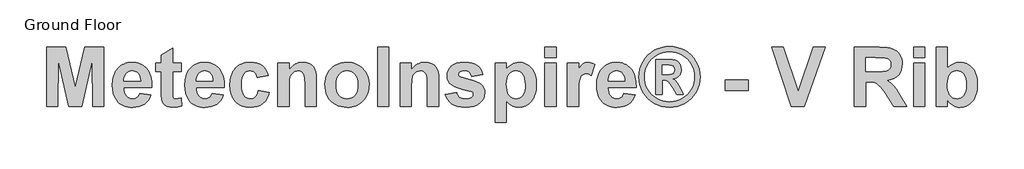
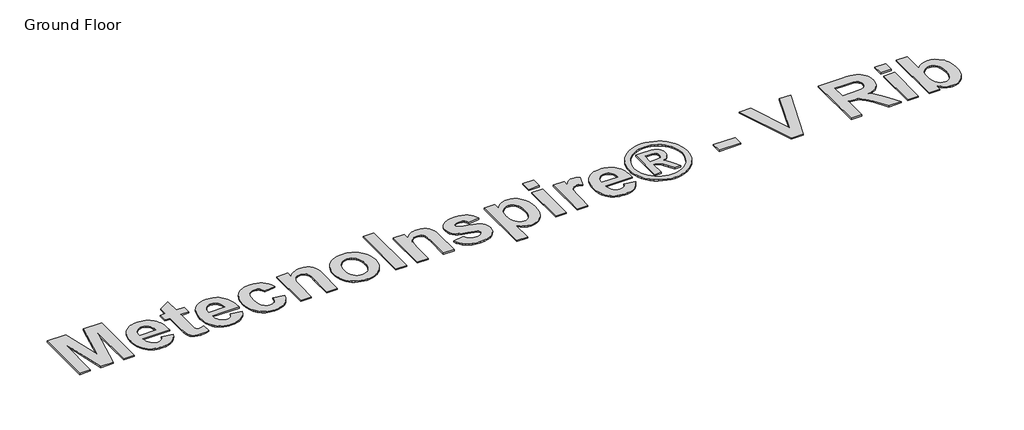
# One storey, part 13 of 14: 1 proxy.
"""IFC4 building model written with IfcOpenShell, lengths in millimetres."""

from ifc_helpers import new_model, si_unit, origin, origin_with_axes, place, context, project, spatial, polyline, outline, extrude, element, save

model = new_model("IFC4")

# Units and contexts
model_context = context("Model", 3, world=origin())
ifc_project = project(units=[si_unit("LENGTHUNIT", "METRE", prefix="MILLI")], contexts=[model_context])

# Site, building, storey
site = spatial("IfcSite", under=ifc_project)
building = spatial("IfcBuilding", under=site)
storey = spatial("IfcBuildingStorey", under=building, Name="Ground Floor", Elevation=0.0)

# Proxy
placement = place(None, origin())
element("IfcBuildingElementProxy", 1, Name="900mm Arial", ObjectType="900mm Arial", at=placement, inside=storey, context=model_context, shape_type="SweptSolid", body=[
    extrude(outline(polyline([(638.3193538, -6419.7488861), (638.3193538, -5497.7851027), (939.2380886, -5497.7851027), (1084.6668997, -6126.6046475), (1230.0957107, -5497.7851027), (1531.0144456, -5497.7851027), (1531.0144456, -6419.7488861), (1355.4022964, -6419.7488861), (1348.0851235, -5693.9768007), (1187.5646434, -6419.7488861), (981.9978176, -6419.7488861), (821.2486759, -5693.9768007), (813.931503, -6419.7488861), (638.3193538, -6419.7488861)])), origin_with_axes(), (0.0, 0.0, 1.0), 20.0),
    extrude(outline(polyline([(2087.1195848, -6214.8680454), (2262.731734, -6244.1367369), (2243.7528168, -6287.889715), (2219.972005, -6326.0833567), (2191.3892984, -6358.7176619), (2158.0046971, -6385.7926307), (2119.975406, -6407.0510187), (2077.45863, -6422.2355816), (2030.454369, -6431.3463193), (1978.9626231, -6434.3832319), (1937.8142441, -6432.5932399), (1899.431242, -6427.2232639), (1863.8136168, -6418.2733039), (1830.9613684, -6405.7433599), (1800.8744969, -6389.6334319), (1773.5530023, -6369.9435199), (1748.9968845, -6346.6736239), (1727.2061436, -6319.8237439), (1698.9950122, -6270.961607), (1678.844204, -6216.0685191), (1666.7537191, -6155.14448), (1662.7235575, -6088.1894898), (1668.0685237, -6009.2440543), (1684.103422, -5939.330754), (1696.1295958, -5907.7611545), (1710.8282527, -5878.449589), (1728.1993926, -5851.3960572), (1748.2430156, -5826.6005592), (1793.8324326, -5785.1842174), (1818.7494071, -5768.9135117), (1845.0812255, -5755.6011161), (1872.8278879, -5745.2470306), (1901.9893943, -5737.8512553), (1964.556939, -5731.934635), (2000.288895, -5733.4530913), (2034.0843727, -5738.0084602), (2065.9433721, -5745.6007416), (2095.865893, -5756.2299356), (2123.8519356, -5769.8960422), (2149.9014998, -5786.5990614), (2174.0145856, -5806.3389931), (2196.1911931, -5829.1158374), (2216.0168729, -5855.0296337), (2233.0771759, -5884.1804216), (2247.3721021, -5916.568201), (2258.9016513, -5952.1929719), (2267.6658237, -5991.0547344), (2273.6646193, -6033.1534883), (2277.3660798, -6127.0619708), (1838.3357067, -6127.0619708), (1841.6084266, -6166.3631923), (1849.5972931, -6201.0340154), (1862.3023062, -6231.07444), (1879.7234659, -6256.4844662), (1900.7174638, -6276.6924397), (1924.1409919, -6291.1267065), (1949.99405, -6299.7872666), (1978.2766381, -6302.67412), (2015.1483296, -6297.4720674), (2045.7318257, -6281.8659096), (2058.608335, -6269.8754642), (2069.7984646, -6254.7123383), (2087.1195848, -6214.8680454)]), holes=[polyline([(2101.7539306, -6024.6215504), (2098.6241242, -5987.5426343), (2091.0639983, -5955.1941561), (2079.0735529, -5927.5761159), (2062.652788, -5904.6885136), (2043.0164685, -5886.7314282), (2021.3793597, -5873.9049386), (1997.7414613, -5866.2090449), (1972.1027735, -5863.6437469), (1944.8634542, -5866.3448127), (1920.0822476, -5874.44801), (1897.7591537, -5887.9533389), (1877.8941726, -5906.8607993), (1861.7163607, -5930.512989), (1850.2261127, -5958.0238441), (1843.4234285, -5989.3933645), (1841.3083082, -6024.6215504), (2101.7539306, -6024.6215504)])]), origin_with_axes(), (0.0, 0.0, 1.0), 20.0),
    extrude(outline(polyline([(2731.0307986, -5746.5689808), (2731.0307986, -5878.2780927), (2599.3216867, -5878.2780927), (2599.3216867, -6167.07776), (2600.3220814, -6236.3908234), (2603.3232656, -6269.1751879), (2609.8687054, -6282.4375637), (2621.501867, -6293.1846614), (2637.2223556, -6300.3017553), (2656.0297765, -6302.67412), (2690.7863477, -6298.4438794), (2738.3479715, -6285.7531577), (2745.6651444, -6410.60242), (2712.8379059, -6421.0065252), (2677.9241298, -6428.4380289), (2601.8369649, -6434.3832319), (2555.0756569, -6430.2673222), (2513.1162436, -6417.9195929), (2478.8455785, -6399.0550066), (2455.1505147, -6375.3885255), (2439.5157742, -6344.6906987), (2429.4260788, -6304.7320749), (2425.1386728, -6256.9989549), (2423.7095375, -6176.910211), (2423.7095375, -5878.2780927), (2335.9034629, -5878.2780927), (2335.9034629, -5746.5689808), (2423.7095375, -5746.5689808), (2423.7095375, -5614.8598689), (2599.3216867, -5512.4194485), (2599.3216867, -5746.5689808), (2731.0307986, -5746.5689808)])), origin_with_axes(), (0.0, 0.0, 1.0), 20.0),
    extrude(outline(polyline([(3213.9642089, -6214.8680454), (3389.5763582, -6244.1367369), (3370.597441, -6287.889715), (3346.8166291, -6326.0833567), (3318.2339225, -6358.7176619), (3284.8493213, -6385.7926307), (3246.8200302, -6407.0510187), (3204.3032541, -6422.2355816), (3157.2989932, -6431.3463193), (3105.8072472, -6434.3832319), (3064.6588683, -6432.5932399), (3026.2758662, -6427.2232639), (2990.658241, -6418.2733039), (2957.8059926, -6405.7433599), (2927.7191211, -6389.6334319), (2900.3976264, -6369.9435199), (2875.8415086, -6346.6736239), (2854.0507677, -6319.8237439), (2825.8396363, -6270.961607), (2805.6888282, -6216.0685191), (2793.5983433, -6155.14448), (2789.5681817, -6088.1894898), (2794.9131478, -6009.2440543), (2810.9480462, -5939.330754), (2822.97422, -5907.7611545), (2837.6728768, -5878.449589), (2855.0440168, -5851.3960572), (2875.0876397, -5826.6005592), (2920.6770567, -5785.1842174), (2945.5940312, -5768.9135117), (2971.9258496, -5755.6011161), (2999.672512, -5745.2470306), (3028.8340184, -5737.8512553), (3091.4015631, -5731.934635), (3127.1335192, -5733.4530913), (3160.9289969, -5738.0084602), (3192.7879962, -5745.6007416), (3222.7105172, -5756.2299356), (3250.6965597, -5769.8960422), (3276.7461239, -5786.5990614), (3300.8592098, -5806.3389931), (3323.0358172, -5829.1158374), (3342.8614971, -5855.0296337), (3359.9218001, -5884.1804216), (3374.2167262, -5916.568201), (3385.7462755, -5952.1929719), (3394.5104479, -5991.0547344), (3400.5092434, -6033.1534883), (3404.2107039, -6127.0619708), (2965.1803309, -6127.0619708), (2968.4530508, -6166.3631923), (2976.4419173, -6201.0340154), (2989.1469304, -6231.07444), (3006.56809, -6256.4844662), (3027.562088, -6276.6924397), (3050.985616, -6291.1267065), (3076.8386741, -6299.7872666), (3105.1212623, -6302.67412), (3141.9929538, -6297.4720674), (3172.5764498, -6281.8659096), (3185.4529591, -6269.8754642), (3196.6430888, -6254.7123383), (3213.9642089, -6214.8680454)]), holes=[polyline([(3228.5985547, -6024.6215504), (3225.4687483, -5987.5426343), (3217.9086225, -5955.1941561), (3205.918177, -5927.5761159), (3189.4974121, -5904.6885136), (3169.8610927, -5886.7314282), (3148.2239838, -5873.9049386), (3124.5860855, -5866.2090449), (3098.9473977, -5863.6437469), (3071.7080783, -5866.3448127), (3046.9268717, -5874.44801), (3024.6037779, -5887.9533389), (3004.7387968, -5906.8607993), (2988.5609849, -5930.512989), (2977.0707368, -5958.0238441), (2970.2680527, -5989.3933645), (2968.1529324, -6024.6215504), (3228.5985547, -6024.6215504)])]), origin_with_axes(), (0.0, 0.0, 1.0), 20.0),
    extrude(outline(polyline([(4092.024955, -5936.8154758), (3916.4128058, -5966.0841673), (3910.9892372, -5942.1675876), (3902.950351, -5921.4093969), (3892.2961471, -5903.8095954), (3879.0266256, -5889.3681829), (3863.3561567, -5878.1137421), (3845.4991108, -5870.0748559), (3825.4554878, -5865.2515242), (3803.2252878, -5863.6437469), (3773.8136827, -5866.6592225), (3747.5461753, -5875.7056491), (3724.4227657, -5890.7830268), (3704.4434538, -5911.8913556), (3688.3370987, -5940.059613), (3676.8325593, -5976.3167763), (3669.9298356, -6020.6628455), (3667.6289278, -6073.0978208), (3670.0227294, -6131.3636681), (3677.2041345, -6180.3973012), (3689.1731428, -6220.1987202), (3705.9297546, -6250.7679248), (3726.7165279, -6273.4768852), (3750.7760212, -6289.6975712), (3778.1082344, -6299.4299828), (3808.7131674, -6302.67412), (3831.7436833, -6300.8233897), (3852.587622, -6295.271199), (3871.2449837, -6286.0175477), (3887.7157684, -6273.062436), (3901.957102, -6255.5769652), (3913.9261103, -6232.732237), (3923.6227935, -6204.5282513), (3931.0471516, -6170.9650081), (4106.6593008, -6200.2336996), (4090.4743432, -6254.6480273), (4068.2155605, -6301.9595523), (4039.8829526, -6342.1682748), (4005.4765195, -6375.2741947), (3964.8533478, -6401.1343985), (3917.8705238, -6419.6059726), (3864.5280477, -6430.6889171), (3804.8259193, -6434.3832319), (3736.9920109, -6428.5666511), (3705.7922003, -6421.2959251), (3676.4038187, -6411.1169087), (3648.8268661, -6398.029602), (3623.0613425, -6382.0340048), (3599.107248, -6363.1301172), (3576.9645825, -6341.3179393), (3557.0549409, -6316.9368906), (3539.7999183, -6290.3263907), (3525.1995145, -6261.4864398), (3513.2537295, -6230.4170378), (3497.3260163, -6161.5898803), (3492.0167785, -6083.8449184), (3497.2902879, -6005.2210383), (3513.110816, -5935.8150811), (3524.9762121, -5904.5688235), (3539.4783628, -5875.6270467), (3556.6172682, -5848.9897506), (3576.3929284, -5824.6569352), (3598.4194766, -5802.9251461), (3622.3110465, -5784.0909289), (3648.0676379, -5768.1542835), (3675.689251, -5755.1152101), (3705.1758857, -5744.9737085), (3736.527542, -5737.7297788), (3804.8259193, -5731.934635), (3860.6908193, -5735.1001698), (3910.5247683, -5744.596774), (3954.3277661, -5760.4244478), (3992.0998128, -5782.5831911), (4024.4125626, -5811.2159174), (4051.8376696, -5846.4655403), (4074.3751337, -5888.3320598), (4092.024955, -5936.8154758)])), origin_with_axes(), (0.0, 0.0, 1.0), 20.0),
    extrude(outline(polyline([(4838.3765892, -6419.7488861), (4662.76444, -6419.7488861), (4662.76444, -6073.7838057), (4660.0205002, -5983.2337913), (4651.7886807, -5931.5562578), (4637.3258311, -5902.9163858), (4615.8888012, -5881.4793558), (4588.5065683, -5868.1026492), (4556.2081099, -5863.6437469), (4534.3780677, -5865.2372328), (4513.7056252, -5870.0176905), (4494.1907823, -5877.98512), (4475.833539, -5889.1395212), (4459.4556481, -5902.9306771), (4445.8788625, -5918.8083706), (4435.1031821, -5936.7726017), (4427.128607, -5956.8233704), (4417.2675732, -6016.8756369), (4413.9805619, -6112.6562867), (4413.9805619, -6419.7488861), (4238.3684127, -6419.7488861), (4238.3684127, -5746.5689808), (4413.9805619, -5746.5689808), (4413.9805619, -5843.5215215), (4435.5212042, -5817.368345), (4458.4123793, -5794.7022587), (4482.6540873, -5775.5232626), (4508.2463282, -5759.8313567), (4535.189102, -5747.6265409), (4563.4824087, -5738.9088154), (4593.1262482, -5733.6781801), (4624.1206207, -5731.934635), (4677.5131166, -5737.2510185), (4726.1037178, -5753.2001687), (4766.6911611, -5777.3811385), (4796.0741835, -5807.3929804), (4816.2249916, -5842.5211268), (4829.1157923, -5882.05101), (4836.06139, -5932.8424796), (4838.3765892, -6001.7553851), (4838.3765892, -6419.7488861)])), origin_with_axes(), (0.0, 0.0, 1.0), 20.0),
    extrude(outline(polyline([(4970.0857011, -6073.5551441), (4972.7939126, -6029.6592524), (4980.9185469, -5986.4636371), (4994.4596042, -5943.9682981), (5013.4170843, -5902.1732354), (5037.333664, -5863.179278), (5065.75202, -5829.0872547), (5098.6721523, -5799.8971656), (5136.0940609, -5775.6090107), (5176.9244573, -5756.5014713), (5220.0700529, -5742.8532289), (5265.5308477, -5734.6642835), (5313.3068417, -5731.934635), (5350.2946504, -5733.481674), (5385.5710696, -5738.122791), (5419.1360992, -5745.857986), (5450.9897393, -5756.6872589), (5481.1319898, -5770.6106099), (5509.5628508, -5787.6280388), (5536.2823221, -5807.7395457), (5561.290404, -5830.9451306), (5583.9332669, -5856.5159345), (5603.5570813, -5883.7230983), (5620.1618474, -5912.5666221), (5633.7475652, -5943.0465058), (5644.3142345, -5975.1627495), (5651.8618555, -6008.9153531), (5657.8999522, -6081.3296402), (5656.3743503, -6118.6425773), (5651.7975444, -6154.3227272), (5644.1695345, -6188.37009), (5633.4903208, -6220.7846656), (5619.7599031, -6251.5664542), (5602.9782815, -6280.7154557), (5583.145456, -6308.23167), (5560.2614265, -6334.1150972), (5535.0657707, -6357.6154413), (5508.298066, -6377.9824061), (5479.9583124, -6395.2159918), (5450.04651, -6409.3161982), (5418.5626587, -6420.2830255), (5385.5067585, -6428.1164735), (5350.8788095, -6432.8165423), (5314.6788116, -6434.3832319), (5269.368076, -6431.7750599), (5225.1291919, -6423.950544), (5181.9621593, -6410.9096841), (5139.8669782, -6392.6524803), (5100.7944183, -6369.3504288), (5066.6952494, -6341.1750257), (5037.5694713, -6308.1262713), (5013.4170843, -6270.2041653), (4994.4596042, -6227.6445152), (4980.9185469, -6180.6831283), (4972.7939126, -6129.3200046), (4970.0857011, -6073.5551441)]), holes=[polyline([(5145.6978503, -6083.1589335), (5148.7347629, -6133.2143984), (5157.8455006, -6177.0531246), (5173.0300635, -6214.6751121), (5194.2884515, -6246.080361), (5220.0057418, -6270.8401305), (5248.5670113, -6288.5256802), (5279.9722602, -6299.13701), (5314.2214883, -6302.67412), (5348.4564251, -6299.13701), (5379.8187999, -6288.5256802), (5408.3086127, -6270.8401305), (5433.9258635, -6246.080361), (5455.084212, -6214.589364), (5470.1973181, -6176.7101321), (5479.2651818, -6132.4426653), (5482.287803, -6081.7869636), (5479.2651818, -6032.3317355), (5470.1973181, -5988.9217499), (5455.084212, -5951.5570067), (5433.9258635, -5920.237506), (5408.3086127, -5895.4777364), (5379.8187999, -5877.7921867), (5348.4564251, -5867.1808569), (5314.2214883, -5863.6437469), (5279.9722602, -5867.1808569), (5248.5670113, -5877.7921867), (5220.0057418, -5895.4777364), (5194.2884515, -5920.237506), (5173.0300635, -5951.6427548), (5157.8455006, -5989.2647424), (5148.7347629, -6033.1034686), (5145.6978503, -6083.1589335)])]), origin_with_axes(), (0.0, 0.0, 1.0), 20.0),
    extrude(outline(polyline([(5789.6090641, -6419.7488861), (5789.6090641, -5497.7851027), (5965.2212134, -5497.7851027), (5965.2212134, -6419.7488861), (5789.6090641, -6419.7488861)])), origin_with_axes(), (0.0, 0.0, 1.0), 20.0),
    extrude(outline(polyline([(6740.8415391, -6419.7488861), (6565.2293898, -6419.7488861), (6565.2293898, -6073.7838057), (6562.48545, -5983.2337913), (6554.2536305, -5931.5562578), (6539.790781, -5902.9163858), (6518.3537511, -5881.4793558), (6490.9715182, -5868.1026492), (6458.6730597, -5863.6437469), (6436.8430176, -5865.2372328), (6416.170575, -5870.0176905), (6396.6557321, -5877.98512), (6378.2984888, -5889.1395212), (6361.920598, -5902.9306771), (6348.3438123, -5918.8083706), (6337.5681319, -5936.7726017), (6329.5935568, -5956.8233704), (6319.732523, -6016.8756369), (6316.4455118, -6112.6562867), (6316.4455118, -6419.7488861), (6140.8333626, -6419.7488861), (6140.8333626, -5746.5689808), (6316.4455118, -5746.5689808), (6316.4455118, -5843.5215215), (6337.986154, -5817.368345), (6360.8773292, -5794.7022587), (6385.1190372, -5775.5232626), (6410.7112781, -5759.8313567), (6437.6540519, -5747.6265409), (6465.9473585, -5738.9088154), (6495.5911981, -5733.6781801), (6526.5855706, -5731.934635), (6579.9780664, -5737.2510185), (6628.5686676, -5753.2001687), (6669.156111, -5777.3811385), (6698.5391333, -5807.3929804), (6718.6899415, -5842.5211268), (6731.5807421, -5882.05101), (6738.5263398, -5932.8424796), (6740.8415391, -6001.7553851), (6740.8415391, -6419.7488861)])), origin_with_axes(), (0.0, 0.0, 1.0), 20.0),
    extrude(outline(polyline([(6843.2819594, -6229.5023911), (7018.8941087, -6200.2336996), (7025.8182693, -6223.871598), (7035.614992, -6244.4797294), (7048.2842767, -6262.0580939), (7063.8261234, -6276.6066916), (7082.4834851, -6288.0111915), (7104.4993149, -6296.1572629), (7129.8736126, -6301.0449057), (7158.6063784, -6302.67412), (7190.0330643, -6301.1163625), (7217.3152577, -6296.44309), (7240.4529587, -6288.6543024), (7259.4461672, -6277.7499999), (7276.5957912, -6257.3991128), (7282.3123325, -6231.1030227), (7279.2825656, -6212.9244213), (7270.1932649, -6198.1757447), (7249.4422199, -6186.1138426), (7212.7991901, -6175.0809178), (7118.4905497, -6152.1290044), (7043.1894092, -6130.1489031), (6986.8957686, -6109.1406137), (6949.6096279, -6089.1041364), (6915.8963255, -6059.2494994), (6891.8153952, -6024.1070617), (6877.366837, -5983.6768232), (6872.550651, -5937.958784), (6876.6808521, -5896.127993), (6889.0714554, -5857.7557094), (6909.7224609, -5822.8419333), (6938.6338686, -5791.3866647), (6976.2344191, -5765.3764017), (7022.952853, -5746.7976425), (7078.7891703, -5735.6503869), (7143.743371, -5731.934635), (7205.5820567, -5734.9358192), (7258.9316785, -5743.9393718), (7303.7922365, -5758.9452927), (7340.1637306, -5779.9535821), (7369.789706, -5806.849909), (7394.4137077, -5839.5199426), (7414.0357357, -5877.9636829), (7428.6557902, -5922.18113), (7253.0436409, -5951.4498216), (7240.1242576, -5913.8921451), (7219.2017164, -5886.2812506), (7205.4248518, -5876.3773427), (7189.0183782, -5869.3031228), (7148.316604, -5863.6437469), (7098.2968675, -5868.4456416), (7079.503738, -5874.44801), (7064.8551008, -5882.8513258), (7052.3358754, -5898.6289798), (7048.1628002, -5918.5225436), (7052.3358754, -5935.7293329), (7064.8551008, -5950.3065133), (7082.9693911, -5959.8960113), (7114.9034201, -5971.2862199), (7220.2306938, -5999.4687686), (7281.6906586, -6016.2896914), (7333.1038021, -6034.9684902), (7374.4701242, -6055.5051649), (7405.7896249, -6077.8997155), (7428.5986248, -6103.8956871), (7444.8907675, -6134.5506399), (7454.6660532, -6169.8645739), (7457.9244817, -6209.837489), (7453.2011894, -6254.2907434), (7439.0313127, -6295.4998606), (7415.4148513, -6333.4648406), (7382.3518055, -6368.1856835), (7340.0279627, -6397.1471109), (7288.6291106, -6417.8338448), (7228.1552492, -6430.2458851), (7158.6063784, -6434.3832319), (7094.8883798, -6430.9390158), (7038.1874356, -6420.6063673), (6988.5035459, -6403.3852866), (6945.8367106, -6379.2757736), (6910.0583077, -6349.2496404), (6881.0397148, -6314.2786989), (6858.7809321, -6274.3629491), (6843.2819594, -6229.5023911)])), origin_with_axes(), (0.0, 0.0, 1.0), 20.0),
    extrude(outline(polyline([(7618.9022852, -5746.5689808), (7794.5144344, -5746.5689808), (7794.5144344, -5843.5215215), (7811.3067745, -5819.7835837), (7830.8144717, -5798.4180105), (7853.0375261, -5779.424802), (7877.9759376, -5762.8039581), (7905.0008866, -5749.2986293), (7933.4835538, -5739.6519658), (7963.4239389, -5733.8639677), (7994.8220421, -5731.934635), (8048.6218415, -5737.6726134), (8098.2056918, -5754.8865484), (8143.5735928, -5783.5764401), (8184.7255446, -5823.7422886), (8203.0274089, -5847.8178596), (8218.8890246, -5874.1407459), (8243.2915104, -5933.5284645), (8257.9330018, -6001.9054443), (8262.8134989, -6079.2716854), (8257.7757969, -6158.8316491), (8242.6626908, -6228.9879024), (8231.3278612, -6260.5396377), (8217.4741806, -6289.7404453), (8201.101649, -6316.5903253), (8182.2102664, -6341.0892776), (8139.7720928, -6381.9053826), (8093.0608046, -6411.0597433), (8042.0764017, -6428.5523598), (7986.8188842, -6434.3832319), (7934.7411928, -6428.9525177), (7887.8083886, -6412.6603749), (7842.3047198, -6383.1630217), (7794.5144344, -6338.1166761), (7794.5144344, -6668.5327642), (7618.9022852, -6668.5327642), (7618.9022852, -5746.5689808)]), holes=[polyline([(7794.5144344, -6071.4971892), (7797.2655199, -6126.747561), (7805.5187764, -6174.280602), (7819.2742039, -6214.0963123), (7838.5318025, -6246.1946918), (7861.7481059, -6270.9044416), (7887.379648, -6288.5542629), (7915.4264289, -6299.1441557), (7945.8884484, -6302.67412), (7974.9213326, -6299.4371285), (8001.4246473, -6289.7261539), (8025.3983924, -6273.5411963), (8046.842568, -6250.8822557), (8064.499535, -6220.8346854), (8077.1116543, -6182.4838388), (8084.6789259, -6135.829716), (8087.2013497, -6080.8723169), (8084.6074691, -6029.3091143), (8076.8258272, -5984.8344228), (8063.8564241, -5947.4482426), (8045.6992598, -5917.1505737), (8023.6977214, -5893.741337), (7999.1951962, -5877.0204536), (7972.1916841, -5866.9879236), (7942.6871853, -5863.6437469), (7912.1394176, -5866.9236125), (7884.2927157, -5876.7632093), (7859.1470796, -5893.1625372), (7836.7025093, -5916.1215962), (7818.2452265, -5945.5117643), (7805.0614531, -5981.2044191), (7797.151189, -6023.1995607), (7794.5144344, -6071.4971892)])]), origin_with_axes(), (0.0, 0.0, 1.0), 20.0),
    extrude(outline(polyline([(8394.5226109, -5658.7629062), (8394.5226109, -5497.7851027), (8570.1347601, -5497.7851027), (8570.1347601, -5658.7629062), (8394.5226109, -5658.7629062)])), origin_with_axes(), (0.0, 0.0, 1.0), 20.0),
    extrude(outline(polyline([(8394.5226109, -6419.7488861), (8394.5226109, -5746.5689808), (8570.1347601, -5746.5689808), (8570.1347601, -6419.7488861), (8394.5226109, -6419.7488861)])), origin_with_axes(), (0.0, 0.0, 1.0), 20.0),
    extrude(outline(polyline([(8921.3590585, -6419.7488861), (8745.7469093, -6419.7488861), (8745.7469093, -5746.5689808), (8921.3590585, -5746.5689808), (8921.3590585, -5840.3202584), (8958.4594117, -5785.1842174), (8975.5089961, -5766.1695718), (8991.5581859, -5752.8571762), (9024.8284563, -5737.1652703), (9062.4432982, -5731.934635), (9090.0970668, -5734.2498343), (9117.2649294, -5741.195432), (9143.946886, -5752.7714281), (9170.1429366, -5768.9778228), (9118.9227264, -5936.1294908), (9076.6203206, -5914.6924609), (9056.6695915, -5909.3332034), (9037.519178, -5907.5467842), (9003.7630016, -5912.5487579), (8975.666201, -5927.5546789), (8963.7043383, -5939.5665613), (8953.0858628, -5955.594314), (8935.8790735, -5999.6974303), (8929.5265669, -6032.9105353), (8924.9890622, -6080.4149936), (8921.3590585, -6218.2979702), (8921.3590585, -6419.7488861)])), origin_with_axes(), (0.0, 0.0, 1.0), 20.0),
    extrude(outline(polyline([(9623.8076554, -6214.8680454), (9799.4198046, -6244.1367369), (9780.4408874, -6287.889715), (9756.6600756, -6326.0833567), (9728.077369, -6358.7176619), (9694.6927677, -6385.7926307), (9656.6634766, -6407.0510187), (9614.1467006, -6422.2355816), (9567.1424396, -6431.3463193), (9515.6506937, -6434.3832319), (9474.5023147, -6432.5932399), (9436.1193126, -6427.2232639), (9400.5016874, -6418.2733039), (9367.649439, -6405.7433599), (9337.5625675, -6389.6334319), (9310.2410729, -6369.9435199), (9285.6849551, -6346.6736239), (9263.8942141, -6319.8237439), (9235.6830828, -6270.961607), (9215.5322746, -6216.0685191), (9203.4417897, -6155.14448), (9199.4116281, -6088.1894898), (9204.7565942, -6009.2440543), (9220.7914926, -5939.330754), (9232.8176664, -5907.7611545), (9247.5163233, -5878.449589), (9264.8874632, -5851.3960572), (9284.9310862, -5826.6005592), (9330.5205032, -5785.1842174), (9355.4374776, -5768.9135117), (9381.7692961, -5755.6011161), (9409.5159585, -5745.2470306), (9438.6774649, -5737.8512553), (9501.2450096, -5731.934635), (9536.9769656, -5733.4530913), (9570.7724433, -5738.0084602), (9602.6314426, -5745.6007416), (9632.5539636, -5756.2299356), (9660.5400062, -5769.8960422), (9686.5895704, -5786.5990614), (9710.7026562, -5806.3389931), (9732.8792637, -5829.1158374), (9752.7049435, -5855.0296337), (9769.7652465, -5884.1804216), (9784.0601727, -5916.568201), (9795.5897219, -5952.1929719), (9804.3538943, -5991.0547344), (9810.3526899, -6033.1534883), (9814.0541504, -6127.0619708), (9375.0237773, -6127.0619708), (9378.2964972, -6166.3631923), (9386.2853637, -6201.0340154), (9398.9903768, -6231.07444), (9416.4115365, -6256.4844662), (9437.4055344, -6276.6924397), (9460.8290625, -6291.1267065), (9486.6821206, -6299.7872666), (9514.9647087, -6302.67412), (9551.8364002, -6297.4720674), (9582.4198963, -6281.8659096), (9595.2964056, -6269.8754642), (9606.4865352, -6254.7123383), (9623.8076554, -6214.8680454)]), holes=[polyline([(9638.4420012, -6024.6215504), (9635.3121948, -5987.5426343), (9627.7520689, -5955.1941561), (9615.7616235, -5927.5761159), (9599.3408586, -5904.6885136), (9579.7045391, -5886.7314282), (9558.0674303, -5873.9049386), (9534.4295319, -5866.2090449), (9508.7908441, -5863.6437469), (9481.5515247, -5866.3448127), (9456.7703181, -5874.44801), (9434.4472243, -5887.9533389), (9414.5822432, -5906.8607993), (9398.4044313, -5930.512989), (9386.9141833, -5958.0238441), (9380.1114991, -5989.3933645), (9377.9963788, -6024.6215504), (9638.4420012, -6024.6215504)])]), origin_with_axes(), (0.0, 0.0, 1.0), 20.0),
    extrude(outline(polyline([(10333.5734251, -5483.150757), (10394.1187433, -5486.973694), (10453.4207138, -5498.442505), (10511.4793366, -5517.55719), (10568.2946116, -5544.3177491), (10621.4798828, -5578.2168391), (10668.6484944, -5618.747117), (10709.8004462, -5665.9085828), (10744.9357382, -5719.7012366), (10773.0468301, -5777.4740323), (10793.1261815, -5836.5759238), (10805.1737923, -5897.0069112), (10809.1896626, -5958.7669944), (10805.2523948, -6020.1340655), (10793.4405913, -6080.0720012), (10773.7542521, -6138.5808015), (10746.1933773, -6195.6604666), (10711.5868653, -6248.9171946), (10670.7636146, -6295.9571839), (10623.7236253, -6336.7804346), (10570.4668973, -6371.3869466), (10513.3872322, -6398.9478214), (10454.8784319, -6418.6341606), (10394.9404962, -6430.4459641), (10333.5734251, -6434.3832319), (10272.2063541, -6430.4459641), (10212.2684184, -6418.6341606), (10153.7596181, -6398.9478214), (10096.679953, -6371.3869466), (10043.423225, -6336.7804346), (9996.3832356, -6295.9571839), (9955.559985, -6248.9171946), (9920.953473, -6195.6604666), (9893.3925982, -6138.5808015), (9873.706259, -6080.0720012), (9861.8944555, -6020.1340655), (9857.9571877, -5958.7669944), (9861.9730579, -5897.0069112), (9874.0206688, -5836.5759238), (9894.1000201, -5777.4740323), (9922.2111121, -5719.7012366), (9957.3464041, -5665.9085828), (9998.4983559, -5618.747117), (10045.6669675, -5578.2168391), (10098.8522387, -5544.3177491), (10155.6675137, -5517.55719), (10213.7261365, -5498.442505), (10273.0281069, -5486.973694), (10333.5734251, -5483.150757)]), holes=[polyline([(10333.3447635, -5570.9568316), (10284.0181576, -5574.0652009), (10235.7348205, -5583.3903089), (10188.4947522, -5598.9321556), (10142.2979527, -5620.690741), (10099.045172, -5648.2659072), (10060.63716, -5681.2574963), (10027.0739168, -5719.6655082), (9998.3554424, -5763.4899431), (9975.3463636, -5810.5799522), (9958.9113073, -5858.7846868), (9949.0502735, -5908.104147), (9945.7632623, -5958.5383328), (9948.9716711, -6008.5937977), (9958.5968975, -6057.4630803), (9974.6389416, -6105.1461805), (9997.0978033, -6151.6430984), (10025.3089347, -6195.031647), (10058.6077879, -6233.3896392), (10096.9943628, -6266.7170751), (10140.4686595, -6295.0139546), (10187.0370342, -6317.5728558), (10234.7058431, -6333.6863566), (10283.4750862, -6343.3544571), (10333.3447635, -6346.5771573), (10383.3930827, -6343.3544571), (10432.2409282, -6333.6863566), (10479.8883001, -6317.5728558), (10526.3351983, -6295.0139546), (10569.6808728, -6266.7170751), (10608.0245737, -6233.3896392), (10641.3663009, -6195.031647), (10669.7060545, -6151.6430984), (10692.3149754, -6105.1461805), (10708.4642046, -6057.4630803), (10718.1537422, -6008.5937977), (10721.383588, -5958.5383328), (10718.0965767, -5908.104147), (10708.235543, -5858.7846868), (10691.8004867, -5810.5799522), (10668.7914079, -5763.4899431), (10640.0514964, -5719.6655082), (10606.4239421, -5681.2574963), (10567.908745, -5648.2659072), (10524.5059051, -5620.690741), (10478.1733377, -5598.9321556), (10430.8689583, -5583.3903089), (10382.5927669, -5574.0652009), (10333.3447635, -5570.9568316)])]), origin_with_axes(), (0.0, 0.0, 1.0), 20.0),
    extrude(outline(polyline([(10121.3754115, -6229.5023911), (10121.3754115, -5688.0315977), (10220.3859071, -5688.0315977), (10376.1044925, -5689.4035676), (10419.8074509, -5697.0923157), (10452.5918153, -5711.0120938), (10477.658849, -5732.5348719), (10498.209815, -5763.0326198), (10511.9295142, -5799.9043113), (10516.5027472, -5840.54892), (10514.3804813, -5868.7600514), (10508.0136834, -5894.8560625), (10497.4023536, -5918.8369533), (10482.5464918, -5940.7027239), (10463.846256, -5959.5387275), (10441.7018041, -5974.4303176), (10416.1131361, -5985.3774943), (10387.0802519, -5992.3802574), (10407.3453908, -6002.155543), (10422.4084772, -6012.7311445), (10456.5933943, -6054.3475652), (10493.8652436, -6120.2021212), (10545.7714388, -6229.5023911), (10443.3310184, -6229.5023911), (10392.7967932, -6142.8396248), (10347.8361957, -6071.4971892), (10315.3948238, -6032.6247082), (10301.4250259, -6022.7208004), (10285.6973916, -6015.6465805), (10248.9686137, -6009.9872046), (10223.8158319, -6009.9872046), (10223.8158319, -6229.5023911), (10121.3754115, -6229.5023911)]), holes=[polyline([(10223.8158319, -5922.18113), (10263.8316211, -5922.18113), (10332.9446056, -5920.3804195), (10369.7019663, -5914.978288), (10388.1092293, -5905.0315061), (10402.1719209, -5889.5968445), (10411.0897254, -5870.1891868), (10414.0623269, -5848.3234162), (10411.1468908, -5827.1436306), (10402.4005826, -5808.4219578), (10388.2807255, -5793.4160369), (10369.2446429, -5783.3835069), (10332.1442898, -5777.724131), (10263.8316211, -5775.8376723), (10223.8158319, -5775.8376723), (10223.8158319, -5922.18113)])]), origin_with_axes(), (0.0, 0.0, 1.0), 20.0),
    extrude(outline(polyline([(11204.3169983, -6170.9650081), (11204.3169983, -6009.9872046), (11555.5412968, -6009.9872046), (11555.5412968, -6170.9650081), (11204.3169983, -6170.9650081)])), origin_with_axes(), (0.0, 0.0, 1.0), 20.0),
    extrude(outline(polyline([(12232.1511269, -6419.7488861), (11921.399941, -5497.7851027), (12106.6158796, -5497.7851027), (12338.4787954, -6185.5993538), (12571.0276961, -5497.7851027), (12755.5576498, -5497.7851027), (12428.3428249, -6419.7488861), (12232.1511269, -6419.7488861)])), origin_with_axes(), (0.0, 0.0, 1.0), 20.0),
    extrude(outline(polyline([(13209.2223686, -6419.7488861), (13209.2223686, -5497.7851027), (13597.0325314, -5497.7851027), (13665.2022866, -5499.3428602), (13723.3680945, -5504.0161328), (13771.5299551, -5511.8049203), (13809.6878684, -5522.7092229), (13841.186011, -5537.600813), (13869.3685597, -5557.3514633), (13894.2355144, -5581.9611736), (13915.7868752, -5611.4299441), (13933.1937435, -5644.4858443), (13945.6272209, -5679.8569436), (13953.0873073, -5717.5432423), (13955.5740028, -5757.5447401), (13951.9797274, -5807.4072718), (13941.1969013, -5852.725153), (13923.2255246, -5893.498384), (13898.0655971, -5929.7269646), (13865.7457017, -5960.5391222), (13826.2944209, -5985.0630845), (13779.7117549, -6003.2988513), (13725.9977035, -6015.2464226), (13776.9320866, -6051.9466179), (13818.1483495, -6092.0767379), (13860.7937477, -6150.2139631), (13916.0155368, -6240.9354738), (14028.7457316, -6419.7488861), (13823.6362292, -6419.7488861), (13690.0978241, -6209.1515041), (13625.5866553, -6128.2910272), (13585.2564563, -6084.1879109), (13556.159261, -6062.4936366), (13525.3471033, -6048.8596856), (13484.4452502, -6041.6568435), (13425.0789687, -6039.2558962), (13384.8345178, -6039.2558962), (13384.8345178, -6419.7488861), (13209.2223686, -6419.7488861)]), holes=[polyline([(13384.8345178, -5878.2780927), (13529.5773439, -5878.2780927), (13643.8224221, -5875.619901), (13705.303824, -5867.6453259), (13736.5733049, -5853.1824763), (13760.1826206, -5831.0594614), (13775.0170453, -5801.876518), (13779.9618535, -5766.2338829), (13778.3326393, -5745.4471096), (13773.4449964, -5726.7611651), (13765.2989251, -5710.1760496), (13753.8944251, -5695.6917631), (13739.5173237, -5683.4940931), (13722.4534479, -5673.7688271), (13680.265373, -5661.7355077), (13537.5805017, -5658.7629062), (13384.8345178, -5658.7629062), (13384.8345178, -5878.2780927)])]), origin_with_axes(), (0.0, 0.0, 1.0), 20.0),
    extrude(outline(polyline([(14131.186152, -5658.7629062), (14131.186152, -5497.7851027), (14306.7983012, -5497.7851027), (14306.7983012, -5658.7629062), (14131.186152, -5658.7629062)])), origin_with_axes(), (0.0, 0.0, 1.0), 20.0),
    extrude(outline(polyline([(14131.186152, -6419.7488861), (14131.186152, -5746.5689808), (14306.7983012, -5746.5689808), (14306.7983012, -6419.7488861), (14131.186152, -6419.7488861)])), origin_with_axes(), (0.0, 0.0, 1.0), 20.0),
    extrude(outline(polyline([(14482.4104504, -6419.7488861), (14482.4104504, -5497.7851027), (14658.0225996, -5497.7851027), (14658.0225996, -5824.085281), (14700.1249264, -5783.7693734), (14745.9430051, -5754.9722965), (14795.4768356, -5737.6940504), (14848.7264179, -5731.934635), (14906.2634063, -5737.4939715), (14958.598342, -5754.1719807), (15005.7312251, -5781.9686629), (15047.6620557, -5820.8840179), (15066.0979014, -5844.3325558), (15082.0756344, -5870.2034781), (15095.5952546, -5898.4967848), (15106.6567621, -5929.2124758), (15121.4054387, -5997.9110111), (15126.3216642, -6076.2990839), (15121.4340214, -6157.3453484), (15106.7710929, -6228.5305791), (15095.7738965, -6260.4253068), (15082.3328788, -6289.8547761), (15066.4480396, -6316.8189869), (15048.119379, -6341.3179393), (15006.9316988, -6382.0340048), (14961.5709435, -6411.1169087), (14912.037113, -6428.5666511), (14858.3302073, -6434.3832319), (14830.9837028, -6432.6253954), (14803.8229859, -6427.3518861), (14776.8480565, -6418.5627038), (14750.0589148, -6406.2578486), (14724.2844591, -6390.494486), (14700.3535881, -6371.3297812), (14678.2663016, -6348.7637343), (14658.0225996, -6322.7963454), (14658.0225996, -6419.7488861), (14482.4104504, -6419.7488861)]), holes=[polyline([(14658.0225996, -6070.3538809), (14660.0519718, -6120.6880272), (14666.1400883, -6163.9908277), (14676.2869491, -6200.2622823), (14690.4925543, -6229.5023911), (14715.0165165, -6261.5150225), (14743.3133961, -6284.3811878), (14775.3831928, -6298.1008869), (14811.2259069, -6302.67412), (14839.0869001, -6299.4299828), (14864.8184817, -6289.6975712), (14888.4206517, -6273.4768852), (14909.89341, -6250.7679248), (14927.7504559, -6221.0990754), (14940.5054887, -6183.9987223), (14948.1585084, -6139.4668654), (14950.709515, -6087.5035049), (14948.1442171, -6032.2031133), (14940.4483233, -5985.205998), (14927.6218337, -5946.512159), (14909.6647483, -5916.1215962), (14887.6917927, -5893.1625372), (14862.8176923, -5876.7632093), (14835.0424471, -5866.9236125), (14804.3660573, -5863.6437469), (14774.2470302, -5866.8450101), (14746.7719035, -5876.4487995), (14721.9406772, -5892.4551152), (14699.7533512, -5914.8639571), (14681.4961474, -5943.7896562), (14668.4552875, -5979.3465432), (14660.6307716, -6021.5346181), (14658.0225996, -6070.3538809)])]), origin_with_axes(), (0.0, 0.0, 1.0), 20.0),
])

save(model, "model.ifc")
